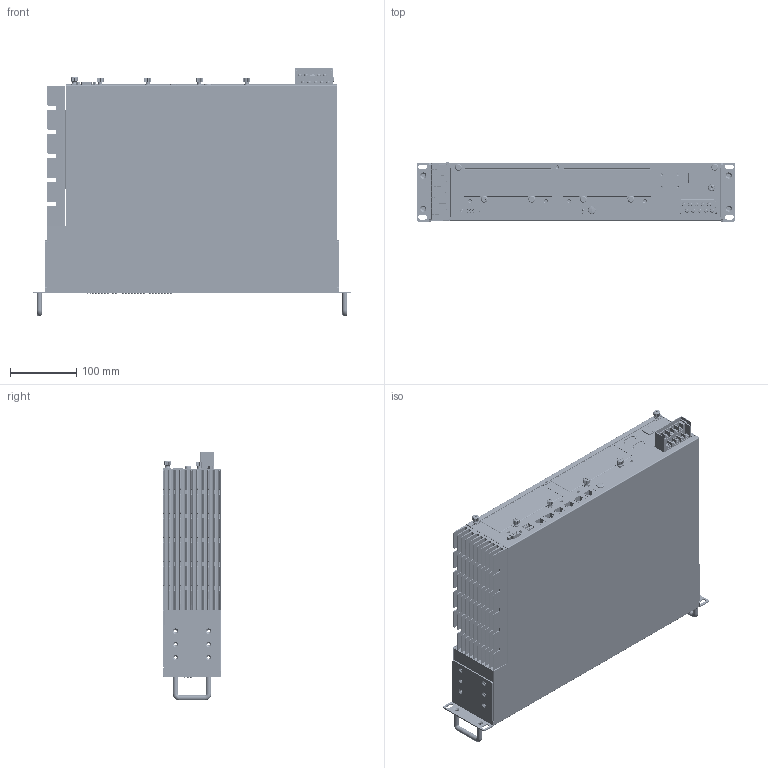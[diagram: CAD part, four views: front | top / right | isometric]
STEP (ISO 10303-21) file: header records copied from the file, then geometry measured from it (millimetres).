
FILE_DESCRIPTION((''),'2;1');
FILE_NAME('PRT0003','2016-02-24T',('Albert_Lin'),(''),'PRO/ENGINEER BY PARAMETRIC TECHNOLOGY CORPORATION, 2013230','PRO/ENGINEER BY PARAMETRIC TECHNOLOGY CORPORATION, 2013230','');
FILE_SCHEMA(('CONFIG_CONTROL_DESIGN'));
Products named in the file (1): PRT0003
Bounding box: 482.6 x 89 x 376.8 mm (x, y, z)
Volume: 581081.9 mm3; surface area: 1159028.1 mm2
Topology: 71 solids, 189 shells, 9496 faces, 24770 edges, 16153 vertices
Faces by surface type: plane 5538, cylinder 2993, cone 419, bspline 216, torus 183, sphere 142, revolution 4, extrusion 1
Entity records: 358996 total; most frequent: CARTESIAN_POINT 86185, ORIENTED_EDGE 48744, DIRECTION 46593, EDGE_CURVE 24544, VERTEX_POINT 16153, AXIS2_PLACEMENT_3D 16075, VECTOR 14439, LINE 14438
